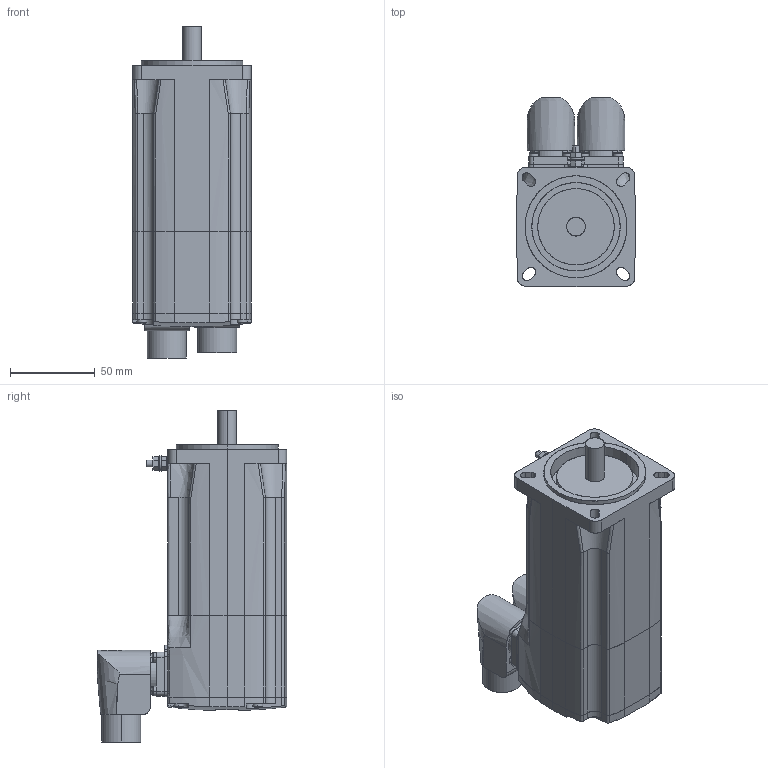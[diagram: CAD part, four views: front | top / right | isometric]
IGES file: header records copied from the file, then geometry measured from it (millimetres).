
Start section: SolidWorks IGES file using analytic representation for surfaces
Global section: file name: C:\PDM\SW-SAP\AA-IGES\SH30701x0xA2100.IGS; native system: SolidWorks 2010; preprocessor: SolidWorks 2010; author: SESA21951; date: 131129.085218; units: millimetre
Bounding box: 70 x 111.4 x 195.45 mm (x, y, z)
Surface area: 87945.4 mm2 (no closed solid volume)
Topology: 0 solids, 0 shells, 424 faces, 6057 edges, 6053 vertices
Faces by surface type: bspline 220, revolution 204
